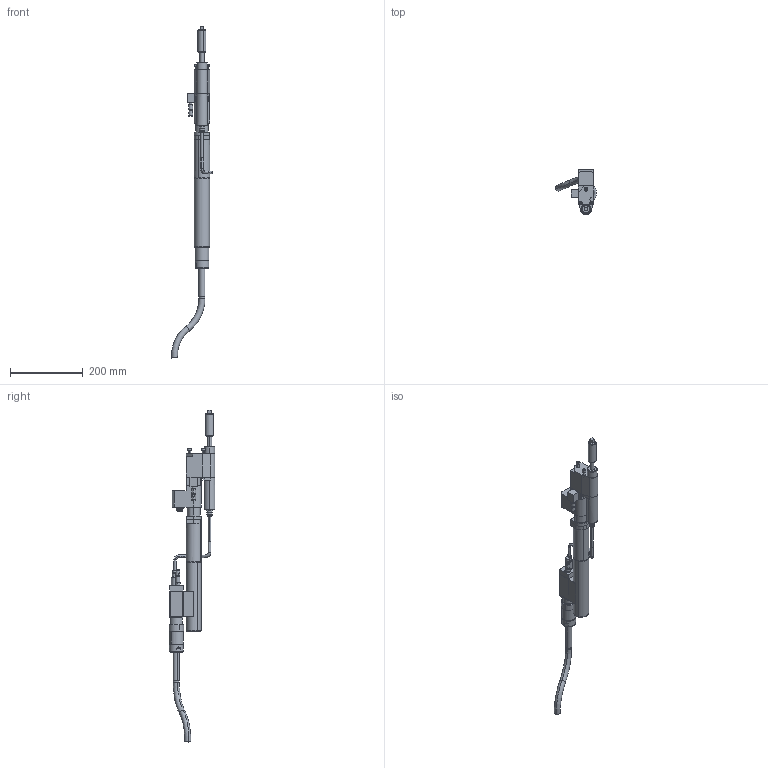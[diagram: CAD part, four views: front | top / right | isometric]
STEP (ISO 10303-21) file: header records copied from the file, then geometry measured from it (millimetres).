
FILE_DESCRIPTION(('CATIA V5 STEP Exchange'),'2;1');
FILE_NAME('O:\3D-Schrauber\Einschauschrauber Groesse1 CATIA V4+V5\7920474_ECR103_DR35_W1_AOD125-35_AllCATPart.stp','2008-11-06T10:39:22+00:00',('none'),('none'),'CATIA Version 5 Release 16 (IN-10)','CATIA V5 STEP AP203','none');
FILE_SCHEMA(('CONFIG_CONTROL_DESIGN'));
Length unit declared in the file: millimetre
Products named in the file (1): 7920474_ECR103_DR35_W1_AOD125-35_AllCATPart
Bounding box: 112.82 x 126.27 x 912.66 mm (x, y, z)
Volume: 1366908.5 mm3; surface area: 199155.1 mm2
Topology: 23 solids, 23 shells, 499 faces, 1127 edges, 722 vertices
Faces by surface type: plane 253, cylinder 168, cone 42, torus 32, bspline 4
Entity records: 13582 total; most frequent: CARTESIAN_POINT 3052, ORIENTED_EDGE 2254, DIRECTION 1811, EDGE_CURVE 1127, AXIS2_PLACEMENT_3D 857, VERTEX_POINT 722, VECTOR 593, LINE 593
